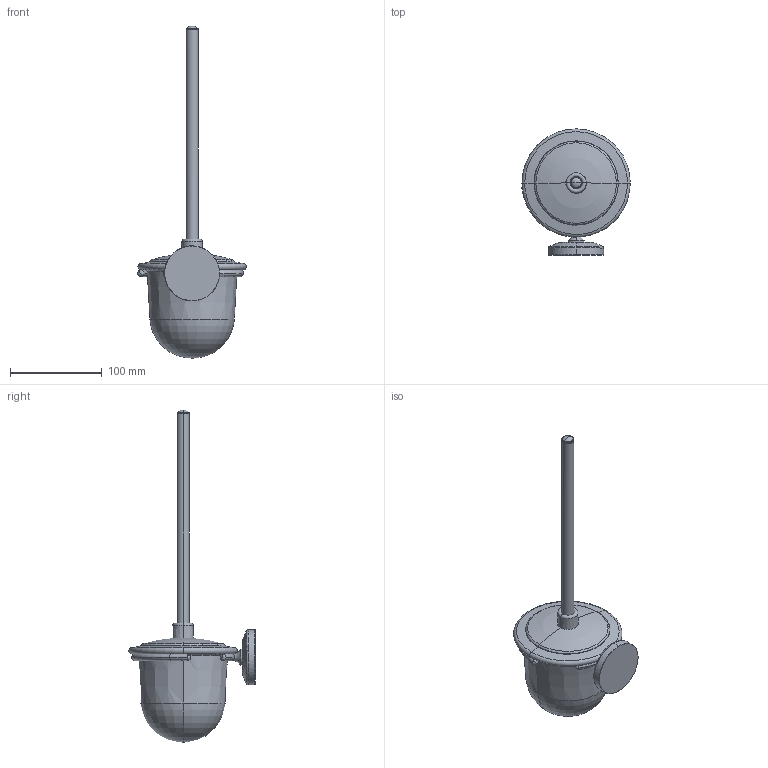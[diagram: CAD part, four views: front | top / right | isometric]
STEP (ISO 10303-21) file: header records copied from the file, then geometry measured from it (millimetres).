
FILE_DESCRIPTION(('THIS FILE CONTAINS SOME STEP INSTANCES'),'1');
FILE_NAME('sta_057.stp','2015-12-07T15:08:49',('UNDEFINED'),('UNDEFINED'),'T-FLEX CAD STEP converter','T-FLEX CAD','');
FILE_SCHEMA(('CONFIG_CONTROL_DESIGN'));
Length unit declared in the file: metre
Products named in the file (3): 3D 鐨飹懤艜_9; 3D 鐨飹懤艜_17; 610506
Bounding box: 118.22 x 137.5 x 361.75 mm (x, y, z)
Volume: 494195.6 mm3; surface area: 157657.1 mm2
Topology: 3 solids, 4 shells, 368 faces, 796 edges, 503 vertices
Faces by surface type: cone 263, sphere 38, torus 24, cylinder 22, plane 15, bspline 6
Entity records: 37901 total; most frequent: CARTESIAN_POINT 31340, ORIENTED_EDGE 1580, DIRECTION 890, EDGE_CURVE 790, VERTEX_POINT 503, EDGE_LOOP 441, B_SPLINE_CURVE_WITH_KNOTS 381, ADVANCED_FACE 368
